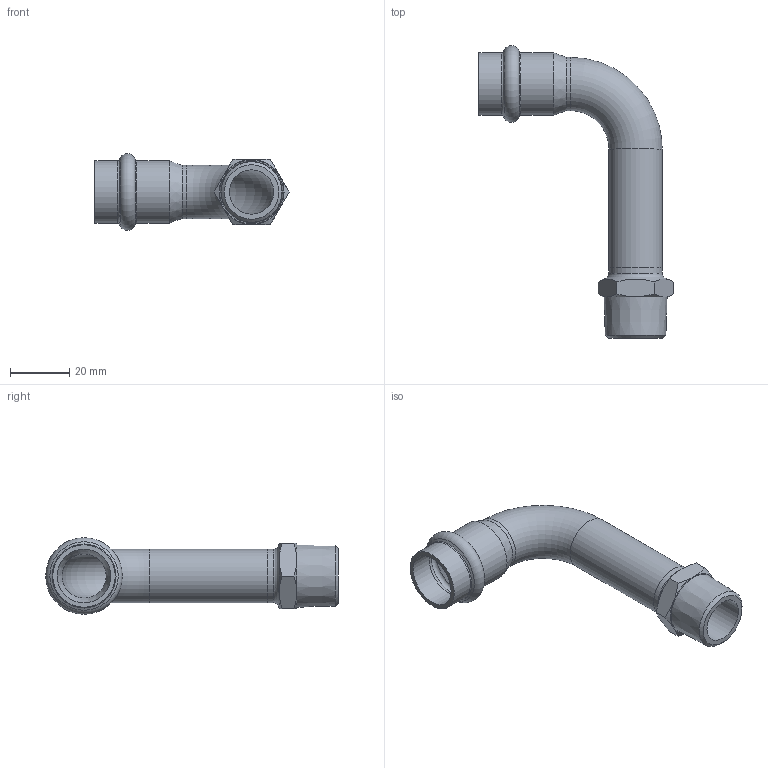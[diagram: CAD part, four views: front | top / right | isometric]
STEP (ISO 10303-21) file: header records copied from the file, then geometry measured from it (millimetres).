
FILE_DESCRIPTION((''),'2;1');
FILE_NAME('G:\Technics\CAD\Bauteile\018\69002AG1812(1).stp','2008-01-31T09:25:42',('herberg'),(''),'Autodesk Inventor 2008','Autodesk Inventor 2008','');
FILE_SCHEMA(('AUTOMOTIVE_DESIGN { 1 0 10303 214 1 1 1 1 }'));
Length unit declared in the file: millimetre
Products named in the file (3): 69002AG1812(1); 69001A18(1); AG1812(1)
Assembly tree (2 placements, depth 2):
  69002AG1812(1)
    69001A18(1)
    AG1812(1)
Bounding box: 65.7 x 98.94 x 25.89 mm (x, y, z)
Volume: 13016.9 mm3; surface area: 15146.7 mm2
Topology: 2 solids, 2 shells, 48 faces, 105 edges, 62 vertices
Faces by surface type: cone 18, plane 11, cylinder 9, bspline 6, torus 4
Full cylindrical faces by diameter (mm): 15 x2, 18 x3, 18.15 x2, 21.15 x2
Entity records: 1371 total; most frequent: CARTESIAN_POINT 462, DIRECTION 182, ORIENTED_EDGE 142, AXIS2_PLACEMENT_3D 88, EDGE_LOOP 78, EDGE_CURVE 71, VERTEX_POINT 53, FACE_OUTER_BOUND 48
